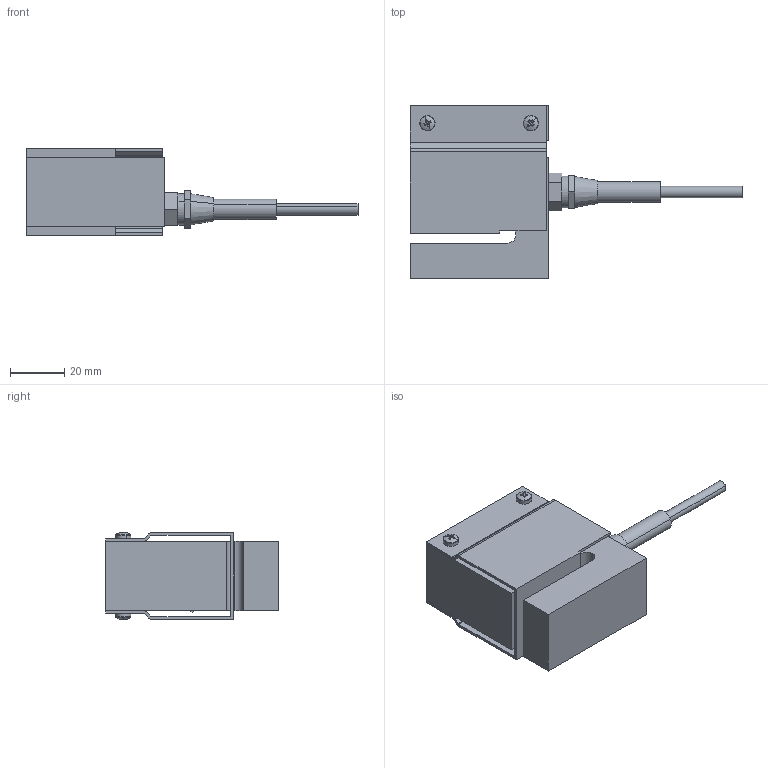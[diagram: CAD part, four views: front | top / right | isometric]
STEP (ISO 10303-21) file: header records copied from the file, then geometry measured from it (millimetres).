
FILE_DESCRIPTION (( 'STEP AP214' ), '1' );
FILE_NAME ('3D_KM1402_2kN.STEP', '2013-12-19T14:03:09', ( '' ), ( '' ), 'SwSTEP 2.0', 'SolidWorks 2012', '' );
FILE_SCHEMA (( 'AUTOMOTIVE_DESIGN' ));
Length unit declared in the file: metre
Products named in the file (1): 3D_KM1402_2kN
Bounding box: 121.9 x 63.5 x 32.01 mm (x, y, z)
Volume: 79375.4 mm3; surface area: 26081.7 mm2
Topology: 1 solids, 1 shells, 225 faces, 571 edges, 348 vertices
Faces by surface type: plane 138, cone 46, cylinder 25, torus 8, sphere 8
Entity records: 7614 total; most frequent: CARTESIAN_POINT 1299, DIRECTION 1195, ORIENTED_EDGE 1126, EDGE_CURVE 563, AXIS2_PLACEMENT_3D 460, VERTEX_POINT 348, VECTOR 275, LINE 275
